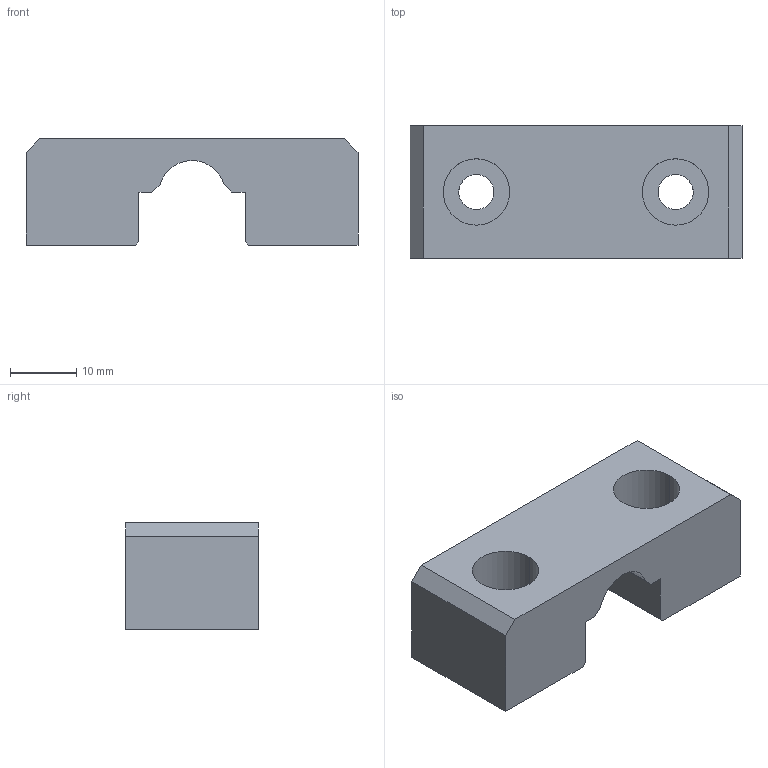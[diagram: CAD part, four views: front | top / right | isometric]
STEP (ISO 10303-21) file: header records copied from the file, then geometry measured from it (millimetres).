
FILE_DESCRIPTION (( 'STEP AP203' ), '1' );
FILE_NAME ('LightMountBracket.STEP', '2025-03-11T00:33:59', ( '' ), ( '' ), 'SwSTEP 2.0', 'SolidWorks 2024', '' );
FILE_SCHEMA (( 'CONFIG_CONTROL_DESIGN' ));
Length unit declared in the file: millimetre
Products named in the file (1): LightMountBracket
Bounding box: 50 x 20 x 16 mm (x, y, z)
Volume: 10763.2 mm3; surface area: 4984.8 mm2
Topology: 1 solids, 1 shells, 28 faces, 72 edges, 48 vertices
Faces by surface type: plane 19, cylinder 9
Entity records: 937 total; most frequent: CARTESIAN_POINT 149, DIRECTION 148, ORIENTED_EDGE 144, EDGE_CURVE 72, VECTOR 54, LINE 54, VERTEX_POINT 48, AXIS2_PLACEMENT_3D 47
